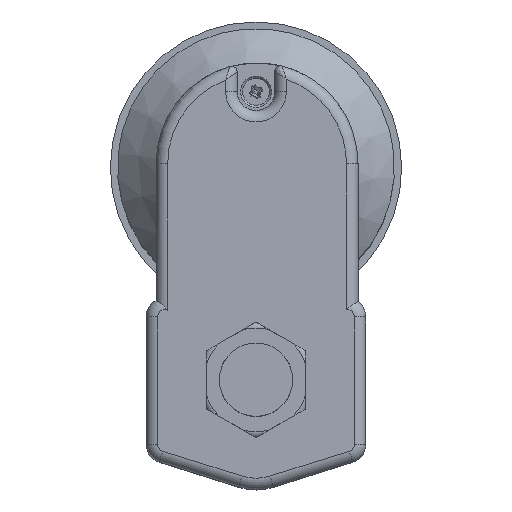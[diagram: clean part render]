
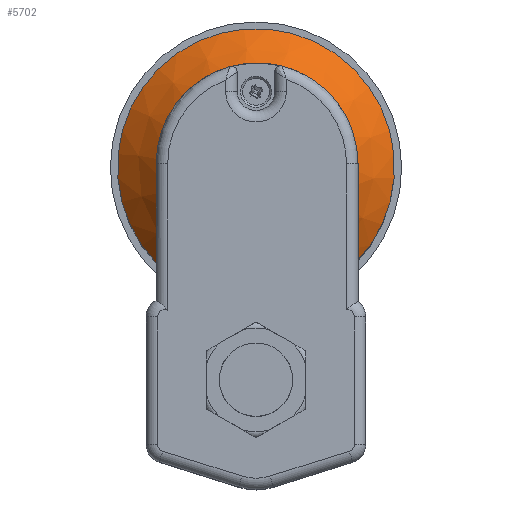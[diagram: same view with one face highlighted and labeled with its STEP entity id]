
A CAD part, top view. The second image highlights one B-rep face of the part: STEP entity #5702.
In plain terms, the highlighted conical face has half-angle 45 degrees and reference radius 48 mm.
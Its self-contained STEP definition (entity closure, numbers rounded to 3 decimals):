
#95 = EDGE_CURVE ( 'NONE', #3533, #3529, #1768, .T. ) ;
#139 = EDGE_CURVE ( 'NONE', #3140, #3140, #997, .T. ) ;
#439 = CIRCLE ( 'NONE', #775, 48. ) ;
#605 = EDGE_CURVE ( 'NONE', #3529, #3533, #439, .T. ) ;
#685 = AXIS2_PLACEMENT_3D ( 'NONE', #4445, #4447, #4448 ) ;
#775 = AXIS2_PLACEMENT_3D ( 'NONE', #5402, #5410, #5411 ) ;
#997 = CIRCLE ( 'NONE', #685, 34. ) ;
#1080 = AXIS2_PLACEMENT_3D ( 'NONE', #2378, #2379, #2368 ) ;
#1407 = FACE_OUTER_BOUND ( 'NONE', #3990, .T. ) ;
#1413 = FACE_BOUND ( 'NONE', #3866, .T. ) ;
#1414 = CONICAL_SURFACE ( 'NONE', #1080, 48., 0.785 ) ;
#1768 = B_SPLINE_CURVE_WITH_KNOTS ( 'NONE', 3,
 ( #3419, #3427, #3396, #3402, #3401, #3403, #3389, #3394, #3393, #3395, #3381, #3386, #3385, #3387, #3374, #3379, #3378, #3380, #3366, #3372, #3371, #3373, #3359, #3364, #3363, #3356 ),
 .UNSPECIFIED., .F., .F.,
 ( 4, 2, 2, 2, 2, 2, 2, 2, 2, 2, 2, 2, 4 ),
 ( 0., 0.004, 0.007, 0.015, 0.018, 0.022, 0.026, 0.029, 0.037, 0.04, 0.044, 0.051, 0.059 ),
 .UNSPECIFIED. ) ;
#2135 = ORIENTED_EDGE ( 'NONE', *, *, #139, .F. ) ;
#2217 = ORIENTED_EDGE ( 'NONE', *, *, #95, .T. ) ;
#2221 = ORIENTED_EDGE ( 'NONE', *, *, #605, .T. ) ;
#2368 = DIRECTION ( 'NONE',  ( 0., 1., 0. ) ) ;
#2378 = CARTESIAN_POINT ( 'NONE',  ( 0., 73.9, 53.5 ) ) ;
#2379 = DIRECTION ( 'NONE',  ( 0., 0., -1. ) ) ;
#3140 = VERTEX_POINT ( 'NONE', #3141 ) ;
#3141 = CARTESIAN_POINT ( 'NONE',  ( 0., 39.9, 67.5 ) ) ;
#3356 = CARTESIAN_POINT ( 'NONE',  ( 27.908, 34.847, 53.5 ) ) ;
#3359 = CARTESIAN_POINT ( 'NONE',  ( 19.078, 34.224, 57.523 ) ) ;
#3363 = CARTESIAN_POINT ( 'NONE',  ( 25.745, 34.688, 54.629 ) ) ;
#3364 = CARTESIAN_POINT ( 'NONE',  ( 23.55, 34.529, 55.668 ) ) ;
#3366 = CARTESIAN_POINT ( 'NONE',  ( 9.746, 33.726, 60.177 ) ) ;
#3371 = CARTESIAN_POINT ( 'NONE',  ( 13.307, 33.888, 59.348 ) ) ;
#3372 = CARTESIAN_POINT ( 'NONE',  ( 12.13, 33.83, 59.65 ) ) ;
#3373 = CARTESIAN_POINT ( 'NONE',  ( 16.801, 34.078, 58.337 ) ) ;
#3374 = CARTESIAN_POINT ( 'NONE',  ( -1.188, 33.529, 61.13 ) ) ;
#3378 = CARTESIAN_POINT ( 'NONE',  ( 4.908, 33.569, 60.942 ) ) ;
#3379 = CARTESIAN_POINT ( 'NONE',  ( 2.477, 33.529, 61.127 ) ) ;
#3380 = CARTESIAN_POINT ( 'NONE',  ( 8.537, 33.68, 60.402 ) ) ;
#3381 = CARTESIAN_POINT ( 'NONE',  ( -8.505, 33.679, 60.407 ) ) ;
#3385 = CARTESIAN_POINT ( 'NONE',  ( -4.863, 33.577, 60.903 ) ) ;
#3386 = CARTESIAN_POINT ( 'NONE',  ( -6.081, 33.605, 60.767 ) ) ;
#3387 = CARTESIAN_POINT ( 'NONE',  ( -2.415, 33.538, 61.085 ) ) ;
#3389 = CARTESIAN_POINT ( 'NONE',  ( -16.779, 34.077, 58.344 ) ) ;
#3393 = CARTESIAN_POINT ( 'NONE',  ( -12.101, 33.829, 59.657 ) ) ;
#3394 = CARTESIAN_POINT ( 'NONE',  ( -13.28, 33.887, 59.356 ) ) ;
#3395 = CARTESIAN_POINT ( 'NONE',  ( -9.715, 33.725, 60.183 ) ) ;
#3396 = CARTESIAN_POINT ( 'NONE',  ( -25.733, 34.688, 54.609 ) ) ;
#3401 = CARTESIAN_POINT ( 'NONE',  ( -22.421, 34.452, 56.137 ) ) ;
#3402 = CARTESIAN_POINT ( 'NONE',  ( -23.531, 34.53, 55.644 ) ) ;
#3403 = CARTESIAN_POINT ( 'NONE',  ( -19.06, 34.223, 57.53 ) ) ;
#3419 = CARTESIAN_POINT ( 'NONE',  ( -27.908, 34.847, 53.5 ) ) ;
#3427 = CARTESIAN_POINT ( 'NONE',  ( -26.826, 34.768, 54.065 ) ) ;
#3529 = VERTEX_POINT ( 'NONE', #5534 ) ;
#3533 = VERTEX_POINT ( 'NONE', #5536 ) ;
#3866 = EDGE_LOOP ( 'NONE', ( #2135 ) ) ;
#3990 = EDGE_LOOP ( 'NONE', ( #2221, #2217 ) ) ;
#4445 = CARTESIAN_POINT ( 'NONE',  ( 0., 73.9, 67.5 ) ) ;
#4447 = DIRECTION ( 'NONE',  ( 0., 0., 1. ) ) ;
#4448 = DIRECTION ( 'NONE',  ( 0., -1., 0. ) ) ;
#5402 = CARTESIAN_POINT ( 'NONE',  ( 0., 73.9, 53.5 ) ) ;
#5410 = DIRECTION ( 'NONE',  ( 0., 0., 1. ) ) ;
#5411 = DIRECTION ( 'NONE',  ( 0., -1., 0. ) ) ;
#5534 = CARTESIAN_POINT ( 'NONE',  ( 27.908, 34.847, 53.5 ) ) ;
#5536 = CARTESIAN_POINT ( 'NONE',  ( -27.908, 34.847, 53.5 ) ) ;
#5702 = ADVANCED_FACE ( 'NONE', ( #1413, #1407 ), #1414, .T. ) ;
